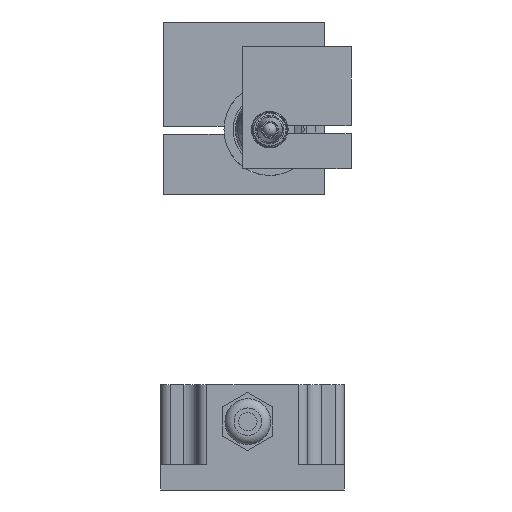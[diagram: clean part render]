
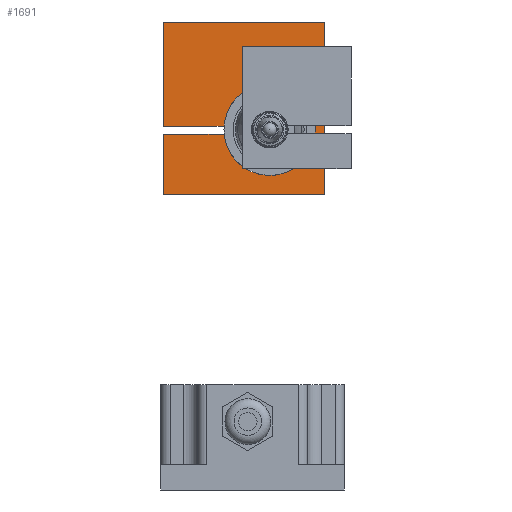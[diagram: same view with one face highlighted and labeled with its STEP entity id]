
A CAD part, left-side view. The second image highlights one B-rep face of the part: STEP entity #1691.
In plain terms, the highlighted planar face has unit normal (-1, 0, 0).
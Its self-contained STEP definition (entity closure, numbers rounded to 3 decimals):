
#446=LINE('',#20200,#855);
#458=LINE('',#20222,#867);
#462=LINE('',#20232,#871);
#463=LINE('',#20234,#872);
#466=LINE('',#20242,#875);
#467=LINE('',#20244,#876);
#468=LINE('',#20246,#877);
#855=VECTOR('',#7381,1.);
#867=VECTOR('',#7397,1.);
#871=VECTOR('',#7405,1.);
#872=VECTOR('',#7408,1.);
#875=VECTOR('',#7415,1.);
#876=VECTOR('',#7416,1.);
#877=VECTOR('',#7417,1.);
#1225=FACE_OUTER_BOUND('',#2648,.T.);
#1691=ADVANCED_FACE('',(#1225),#1913,.T.);
#1913=PLANE('',#6163);
#2648=EDGE_LOOP('',(#3798,#3799,#3800,#3801,#3802,#3803,#3804,#3805));
#3798=ORIENTED_EDGE('',*,*,#5305,.F.);
#3799=ORIENTED_EDGE('',*,*,#5306,.F.);
#3800=ORIENTED_EDGE('',*,*,#5307,.F.);
#3801=ORIENTED_EDGE('',*,*,#5308,.F.);
#3802=ORIENTED_EDGE('',*,*,#5302,.F.);
#3803=ORIENTED_EDGE('',*,*,#5296,.F.);
#3804=ORIENTED_EDGE('',*,*,#5283,.F.);
#3805=ORIENTED_EDGE('',*,*,#5301,.F.);
#4624=VERTEX_POINT('',#20198);
#4626=VERTEX_POINT('',#20201);
#4634=VERTEX_POINT('',#20223);
#4637=VERTEX_POINT('',#20231);
#4638=VERTEX_POINT('',#20235);
#4640=VERTEX_POINT('',#20241);
#4641=VERTEX_POINT('',#20243);
#4642=VERTEX_POINT('',#20245);
#5283=EDGE_CURVE('',#4624,#4626,#446,.T.);
#5296=EDGE_CURVE('',#4626,#4634,#458,.T.);
#5301=EDGE_CURVE('',#4637,#4624,#462,.T.);
#5302=EDGE_CURVE('',#4634,#4638,#463,.T.);
#5305=EDGE_CURVE('',#4640,#4637,#5690,.T.);
#5306=EDGE_CURVE('',#4641,#4640,#466,.T.);
#5307=EDGE_CURVE('',#4642,#4641,#467,.T.);
#5308=EDGE_CURVE('',#4638,#4642,#468,.T.);
#5690=CIRCLE('',#6162,10.);
#6162=AXIS2_PLACEMENT_3D('',#20240,#7413,#7414);
#6163=AXIS2_PLACEMENT_3D('',#20247,#7418,#7419);
#7381=DIRECTION('',(0.,0.,1.));
#7397=DIRECTION('',(0.,-1.,0.));
#7405=DIRECTION('',(0.,1.,0.));
#7408=DIRECTION('',(0.,0.,-1.));
#7413=DIRECTION('',(-1.,0.,0.));
#7414=DIRECTION('',(0.,0.,1.));
#7415=DIRECTION('',(0.,-1.,0.));
#7416=DIRECTION('',(0.,0.,1.));
#7417=DIRECTION('',(0.,1.,0.));
#7418=DIRECTION('',(-1.,0.,0.));
#7419=DIRECTION('',(0.,0.,1.));
#20198=CARTESIAN_POINT('',(234.897,19.425,79.368));
#20200=CARTESIAN_POINT('',(234.897,19.425,83.241));
#20201=CARTESIAN_POINT('',(234.897,19.425,102.069));
#20222=CARTESIAN_POINT('',(234.897,1.788,102.069));
#20223=CARTESIAN_POINT('',(234.897,-15.722,102.069));
#20231=CARTESIAN_POINT('',(234.897,6.237,79.368));
#20232=CARTESIAN_POINT('',(234.897,1.788,79.368));
#20234=CARTESIAN_POINT('',(234.897,-15.722,83.241));
#20235=CARTESIAN_POINT('',(234.897,-15.722,64.414));
#20240=CARTESIAN_POINT('',(234.897,-3.733,78.602));
#20241=CARTESIAN_POINT('',(234.897,6.215,77.59));
#20242=CARTESIAN_POINT('',(234.897,1.788,77.59));
#20243=CARTESIAN_POINT('',(234.897,19.425,77.59));
#20244=CARTESIAN_POINT('',(234.897,19.425,83.241));
#20245=CARTESIAN_POINT('',(234.897,19.425,64.414));
#20246=CARTESIAN_POINT('',(234.897,1.788,64.414));
#20247=CARTESIAN_POINT('',(234.897,1.788,83.241));
